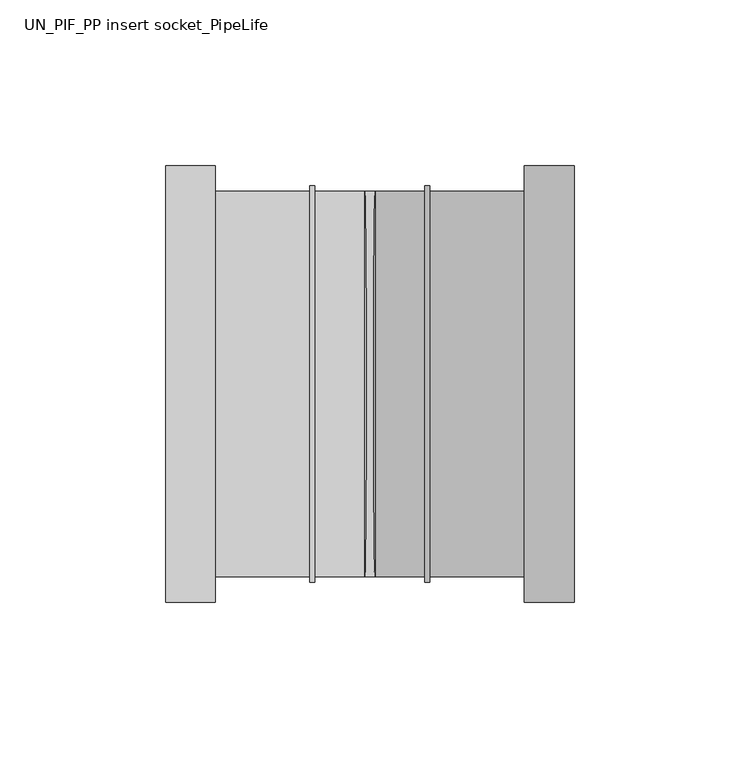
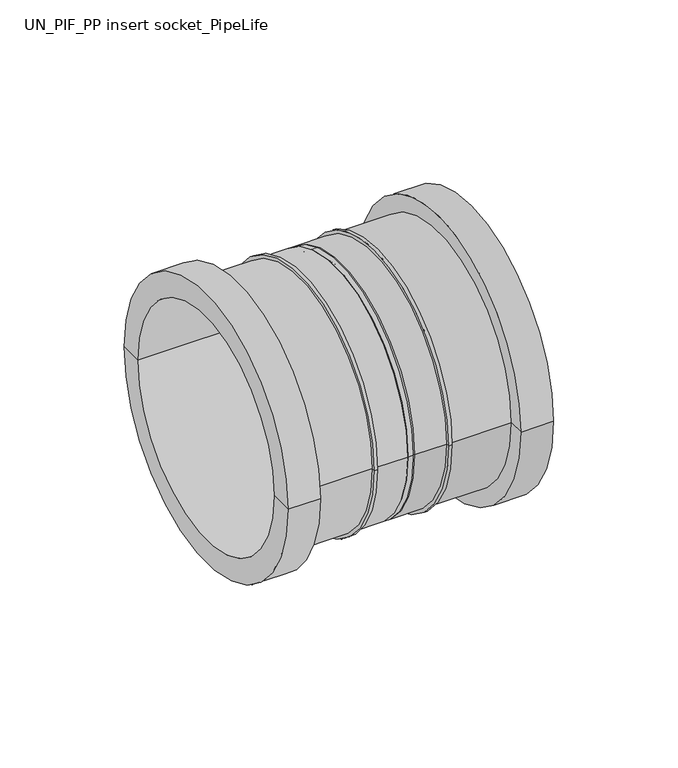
"""IFC4 building model written with IfcOpenShell, lengths in millimetres: pipe fitting geometry, UN_PIF_PP insert socket_PipeLife : Black, var. DN/OD (max. ø125)."""

from ifc_helpers import new_model, si_unit, point, frame, origin, origin_2d, place, context, project, spatial, polyline, circle_curve, trimmed, segment, composite_curve, outline, extrude, source, transform, mapped, element, save
from ifc_brep_helpers import plane_surface, cylinder_surface, revolved_surface, advanced_brep


def un_pif_pp_insert_socket_pipelife_a1a1d698(model_context):
    return source(origin(), model_context, "Body", "SolidModel", [
        advanced_brep(
        [(1.75, 55.0, 0.0), (1.75, -55.0, 0.0), (-1.55, -58.3, 0.0), (-1.55, 58.3, 0.0), (-61.75, 66.0, 0.0), (-61.75, -66.0, 0.0), (-61.75, -55.0, 0.0), (-61.75, 55.0, 0.0), (-46.7, 66.0, 0.0), (-46.7, -66.0, 0.0), (-46.7, 58.3, 0.0), (-46.7, -58.3, 0.0), (-18.15, 58.3, 0.0), (-18.15, -58.3, 0.0), (-18.15, 59.85, 0.0), (-18.15, -59.85, 0.0), (-16.6, 59.85, 0.0), (-16.6, -59.85, 0.0), (-16.6, 58.3, 0.0), (-16.6, -58.3, 0.0)],
        [
            (0, 1, circle_curve(frame((1.75, 0.0, 0.0), z_axis=(-1.0, 0.0, 0.0), x_axis=(0.0, -1.0, 0.0)), 55.0)),
            (1, 2),
            (2, 3, circle_curve(frame((-1.55, 0.0, 0.0), z_axis=(1.0, 0.0, 0.0), x_axis=(0.0, -1.0, 0.0)), 58.3)),
            (3, 0),
            (1, 0, circle_curve(frame((1.75, 0.0, 0.0), z_axis=(-1.0, 0.0, 0.0), x_axis=(0.0, -1.0, 0.0)), 55.0)),
            (3, 2, circle_curve(frame((-1.55, 0.0, 0.0), z_axis=(1.0, 0.0, 0.0), x_axis=(0.0, -1.0, 0.0)), 58.3)),
            (4, 5, circle_curve(frame((-61.75, 0.0, 0.0), z_axis=(-1.0, 0.0, 0.0), x_axis=(0.0, -1.0, 0.0)), 66.0)),
            (5, 6),
            (6, 7, circle_curve(frame((-61.75, 0.0, 0.0), z_axis=(1.0, 0.0, 0.0), x_axis=(0.0, -1.0, 0.0)), 55.0)),
            (7, 4),
            (5, 4, circle_curve(frame((-61.75, 0.0, 0.0), z_axis=(-1.0, 0.0, 0.0), x_axis=(0.0, -1.0, 0.0)), 66.0)),
            (7, 6, circle_curve(frame((-61.75, 0.0, 0.0), z_axis=(1.0, 0.0, 0.0), x_axis=(0.0, -1.0, 0.0)), 55.0)),
            (8, 9, circle_curve(frame((-46.7, 0.0, 0.0), z_axis=(-1.0, 0.0, 0.0), x_axis=(0.0, -1.0, 0.0)), 66.0)),
            (9, 5),
            (4, 8),
            (9, 8, circle_curve(frame((-46.7, 0.0, 0.0), z_axis=(-1.0, 0.0, 0.0), x_axis=(0.0, -1.0, 0.0)), 66.0)),
            (10, 11, circle_curve(frame((-46.7, 0.0, 0.0), z_axis=(-1.0, 0.0, 0.0), x_axis=(0.0, -1.0, 0.0)), 58.3)),
            (11, 9),
            (8, 10),
            (11, 10, circle_curve(frame((-46.7, 0.0, 0.0), z_axis=(-1.0, 0.0, 0.0), x_axis=(0.0, -1.0, 0.0)), 58.3)),
            (12, 13, circle_curve(frame((-18.15, 0.0, 0.0), z_axis=(-1.0, 0.0, 0.0), x_axis=(0.0, -1.0, 0.0)), 58.3)),
            (13, 11),
            (10, 12),
            (13, 12, circle_curve(frame((-18.15, 0.0, 0.0), z_axis=(-1.0, 0.0, 0.0), x_axis=(0.0, -1.0, 0.0)), 58.3)),
            (14, 15, circle_curve(frame((-18.15, 0.0, 0.0), z_axis=(-1.0, 0.0, 0.0), x_axis=(0.0, -1.0, 0.0)), 59.85)),
            (15, 13),
            (12, 14),
            (15, 14, circle_curve(frame((-18.15, 0.0, 0.0), z_axis=(-1.0, 0.0, 0.0), x_axis=(0.0, -1.0, 0.0)), 59.85)),
            (16, 17, circle_curve(frame((-16.6, 0.0, 0.0), z_axis=(-1.0, 0.0, 0.0), x_axis=(0.0, -1.0, 0.0)), 59.85)),
            (17, 15),
            (14, 16),
            (17, 16, circle_curve(frame((-16.6, 0.0, 0.0), z_axis=(-1.0, 0.0, 0.0), x_axis=(0.0, -1.0, 0.0)), 59.85)),
            (18, 19, circle_curve(frame((-16.6, 0.0, 0.0), z_axis=(-1.0, 0.0, 0.0), x_axis=(0.0, -1.0, 0.0)), 58.3)),
            (19, 17),
            (16, 18),
            (19, 18, circle_curve(frame((-16.6, 0.0, 0.0), z_axis=(-1.0, 0.0, 0.0), x_axis=(0.0, -1.0, 0.0)), 58.3)),
            (2, 19),
            (18, 3),
            (6, 1),
            (0, 7),
        ],
        [
            revolved_surface(polyline([(-1.55, -58.3, 0.0), (1.75, -55.0, 0.0)]), (-61.75, 0.0, 0.0), (1.0, 0.0, 0.0)),
            plane_surface(frame((-61.75, 0.0, 0.0), z_axis=(-1.0, 0.0, 0.0), x_axis=(0.0, -1.0, 0.0))),
            cylinder_surface(frame((-61.75, 0.0, 0.0), z_axis=(1.0, 0.0, 0.0), x_axis=(0.0, -1.0, 0.0)), 66.0),
            plane_surface(frame((-46.7, 0.0, 0.0), z_axis=(1.0, 0.0, 0.0), x_axis=(0.0, -1.0, 0.0))),
            cylinder_surface(frame((-61.75, 0.0, 0.0), z_axis=(1.0, 0.0, 0.0), x_axis=(0.0, -1.0, 0.0)), 58.3),
            plane_surface(frame((-18.15, 0.0, 0.0), z_axis=(-1.0, 0.0, 0.0), x_axis=(0.0, -1.0, 0.0))),
            cylinder_surface(frame((-61.75, 0.0, 0.0), z_axis=(1.0, 0.0, 0.0), x_axis=(0.0, -1.0, 0.0)), 59.85),
            plane_surface(frame((-16.6, 0.0, 0.0), z_axis=(1.0, 0.0, 0.0), x_axis=(0.0, -1.0, 0.0))),
            revolved_surface(polyline([(1.75, -55.0, 0.0), (-61.75, -55.0, 0.0)]), (-61.75, 0.0, 0.0), (1.0, 0.0, 0.0)),
        ],
        [
            (0, [[1, 2, 3, 4]]),
            (0, [[5, -4, 6, -2]]),
            (1, [[7, 8, 9, 10]]),
            (1, [[11, -10, 12, -8]]),
            (2, [[13, 14, -7, 15]]),
            (2, [[16, -15, -11, -14]]),
            (3, [[17, 18, -13, 19]]),
            (3, [[20, -19, -16, -18]]),
            (4, [[21, 22, -17, 23]]),
            (4, [[24, -23, -20, -22]]),
            (5, [[25, 26, -21, 27]]),
            (5, [[28, -27, -24, -26]]),
            (6, [[29, 30, -25, 31]]),
            (6, [[32, -31, -28, -30]]),
            (7, [[33, 34, -29, 35]]),
            (7, [[36, -35, -32, -34]]),
            (4, [[-3, 37, -33, 38]]),
            (4, [[-6, -38, -36, -37]]),
            (8, [[-9, 39, -1, 40]]),
            (8, [[-12, -40, -5, -39]]),
        ],
    ),
        advanced_brep(
        [(-1.75, -55.0, 0.0), (-1.75, 55.0, 0.0), (1.55, 58.3, 0.0), (1.55, -58.3, 0.0), (61.75, -66.0, 0.0), (61.75, 66.0, 0.0), (61.75, 55.0, 0.0), (61.75, -55.0, 0.0), (46.7, -66.0, 0.0), (46.7, 66.0, 0.0), (46.7, -58.3, 0.0), (46.7, 58.3, 0.0), (18.15, -58.3, 0.0), (18.15, 58.3, 0.0), (18.15, -59.85, 0.0), (18.15, 59.85, 0.0), (16.6, -59.85, 0.0), (16.6, 59.85, 0.0), (16.6, -58.3, 0.0), (16.6, 58.3, 0.0)],
        [
            (0, 1, circle_curve(frame((-1.75, 0.0, 0.0), z_axis=(1.0, 0.0, 0.0), x_axis=(0.0, 1.0, 0.0)), 55.0)),
            (1, 2),
            (2, 3, circle_curve(frame((1.55, 0.0, 0.0), z_axis=(-1.0, 0.0, 0.0), x_axis=(0.0, 1.0, 0.0)), 58.3)),
            (3, 0),
            (1, 0, circle_curve(frame((-1.75, 0.0, 0.0), z_axis=(1.0, 0.0, 0.0), x_axis=(0.0, 1.0, 0.0)), 55.0)),
            (3, 2, circle_curve(frame((1.55, 0.0, 0.0), z_axis=(-1.0, 0.0, 0.0), x_axis=(0.0, 1.0, 0.0)), 58.3)),
            (4, 5, circle_curve(frame((61.75, 0.0, 0.0), z_axis=(1.0, 0.0, 0.0), x_axis=(0.0, 1.0, 0.0)), 66.0)),
            (5, 6),
            (6, 7, circle_curve(frame((61.75, 0.0, 0.0), z_axis=(-1.0, 0.0, 0.0), x_axis=(0.0, 1.0, 0.0)), 55.0)),
            (7, 4),
            (5, 4, circle_curve(frame((61.75, 0.0, 0.0), z_axis=(1.0, 0.0, 0.0), x_axis=(0.0, 1.0, 0.0)), 66.0)),
            (7, 6, circle_curve(frame((61.75, 0.0, 0.0), z_axis=(-1.0, 0.0, 0.0), x_axis=(0.0, 1.0, 0.0)), 55.0)),
            (8, 9, circle_curve(frame((46.7, 0.0, 0.0), z_axis=(1.0, 0.0, 0.0), x_axis=(0.0, 1.0, 0.0)), 66.0)),
            (9, 5),
            (4, 8),
            (9, 8, circle_curve(frame((46.7, 0.0, 0.0), z_axis=(1.0, 0.0, 0.0), x_axis=(0.0, 1.0, 0.0)), 66.0)),
            (10, 11, circle_curve(frame((46.7, 0.0, 0.0), z_axis=(1.0, 0.0, 0.0), x_axis=(0.0, 1.0, 0.0)), 58.3)),
            (11, 9),
            (8, 10),
            (11, 10, circle_curve(frame((46.7, 0.0, 0.0), z_axis=(1.0, 0.0, 0.0), x_axis=(0.0, 1.0, 0.0)), 58.3)),
            (12, 13, circle_curve(frame((18.15, 0.0, 0.0), z_axis=(1.0, 0.0, 0.0), x_axis=(0.0, 1.0, 0.0)), 58.3)),
            (13, 11),
            (10, 12),
            (13, 12, circle_curve(frame((18.15, 0.0, 0.0), z_axis=(1.0, 0.0, 0.0), x_axis=(0.0, 1.0, 0.0)), 58.3)),
            (14, 15, circle_curve(frame((18.15, 0.0, 0.0), z_axis=(1.0, 0.0, 0.0), x_axis=(0.0, 1.0, 0.0)), 59.85)),
            (15, 13),
            (12, 14),
            (15, 14, circle_curve(frame((18.15, 0.0, 0.0), z_axis=(1.0, 0.0, 0.0), x_axis=(0.0, 1.0, 0.0)), 59.85)),
            (16, 17, circle_curve(frame((16.6, 0.0, 0.0), z_axis=(1.0, 0.0, 0.0), x_axis=(0.0, 1.0, 0.0)), 59.85)),
            (17, 15),
            (14, 16),
            (17, 16, circle_curve(frame((16.6, 0.0, 0.0), z_axis=(1.0, 0.0, 0.0), x_axis=(0.0, 1.0, 0.0)), 59.85)),
            (18, 19, circle_curve(frame((16.6, 0.0, 0.0), z_axis=(1.0, 0.0, 0.0), x_axis=(0.0, 1.0, 0.0)), 58.3)),
            (19, 17),
            (16, 18),
            (19, 18, circle_curve(frame((16.6, 0.0, 0.0), z_axis=(1.0, 0.0, 0.0), x_axis=(0.0, 1.0, 0.0)), 58.3)),
            (2, 19),
            (18, 3),
            (6, 1),
            (0, 7),
        ],
        [
            revolved_surface(polyline([(1.55, 58.3, 0.0), (-1.75, 55.0, 0.0)]), (61.75, 0.0, 0.0), (-1.0, 0.0, 0.0)),
            plane_surface(frame((61.75, 0.0, 0.0), z_axis=(1.0, 0.0, 0.0), x_axis=(0.0, 1.0, 0.0))),
            cylinder_surface(frame((61.75, 0.0, 0.0), z_axis=(-1.0, 0.0, 0.0), x_axis=(0.0, 1.0, 0.0)), 66.0),
            plane_surface(frame((46.7, 0.0, 0.0), z_axis=(-1.0, 0.0, 0.0), x_axis=(0.0, 1.0, 0.0))),
            cylinder_surface(frame((61.75, 0.0, 0.0), z_axis=(-1.0, 0.0, 0.0), x_axis=(0.0, 1.0, 0.0)), 58.3),
            plane_surface(frame((18.15, 0.0, 0.0), z_axis=(1.0, 0.0, 0.0), x_axis=(0.0, 1.0, 0.0))),
            cylinder_surface(frame((61.75, 0.0, 0.0), z_axis=(-1.0, 0.0, 0.0), x_axis=(0.0, 1.0, 0.0)), 59.85),
            plane_surface(frame((16.6, 0.0, 0.0), z_axis=(-1.0, 0.0, 0.0), x_axis=(0.0, 1.0, 0.0))),
            revolved_surface(polyline([(-1.75, 55.0, 0.0), (61.75, 55.0, 0.0)]), (61.75, 0.0, 0.0), (-1.0, 0.0, 0.0)),
        ],
        [
            (0, [[1, 2, 3, 4]]),
            (0, [[5, -4, 6, -2]]),
            (1, [[7, 8, 9, 10]]),
            (1, [[11, -10, 12, -8]]),
            (2, [[13, 14, -7, 15]]),
            (2, [[16, -15, -11, -14]]),
            (3, [[17, 18, -13, 19]]),
            (3, [[20, -19, -16, -18]]),
            (4, [[21, 22, -17, 23]]),
            (4, [[24, -23, -20, -22]]),
            (5, [[25, 26, -21, 27]]),
            (5, [[28, -27, -24, -26]]),
            (6, [[29, 30, -25, 31]]),
            (6, [[32, -31, -28, -30]]),
            (7, [[33, 34, -29, 35]]),
            (7, [[36, -35, -32, -34]]),
            (4, [[-3, 37, -33, 38]]),
            (4, [[-6, -38, -36, -37]]),
            (8, [[-9, 39, -1, 40]]),
            (8, [[-12, -40, -5, -39]]),
        ],
    ),
        extrude(outline(composite_curve([segment(trimmed(circle_curve(origin_2d(), 58.3), [point((-58.3, 0.0))], [point((58.3, 0.0))], False, "CARTESIAN"), True, "CONTINUOUS"), segment(trimmed(circle_curve(origin_2d(), 58.3), [point((58.3, 0.0))], [point((-58.3, 0.0))], False, "CARTESIAN"), True, "CONTINUOUS")], self_intersect=False)), frame((-1.55, 0.0, 0.0), z_axis=(1.0, 0.0, 0.0), x_axis=(0.0, 1.0, 0.0)), (0.0, 0.0, 1.0), 3.1),
    ])


if __name__ == "__main__":
    model = new_model("IFC4")
    model_context = context("Model", 3, world=origin())
    ifc_project = project(units=[si_unit("LENGTHUNIT", "METRE", prefix="MILLI")], contexts=[model_context])
    site = spatial("IfcSite", under=ifc_project)
    building = spatial("IfcBuilding", under=site)
    placement = place(None, origin())
    un_pif_pp_insert_socket_pipelife_shape = un_pif_pp_insert_socket_pipelife_a1a1d698(model_context)
    element("IfcPipeFitting", 1, ObjectType="UN_PIF_PP insert socket_PipeLife : Black, var. DN/OD (max. ø125)", at=placement, inside=building, context=model_context, shape_type="MappedRepresentation", body=[
        mapped(un_pif_pp_insert_socket_pipelife_shape, transform((0.0, 0.0, 0.0), x_axis=(1.0, 0.0, 0.0), y_axis=(0.0, 1.0, 0.0), z_axis=(0.0, 0.0, 1.0))),
    ])
    save(model, "model.ifc")
